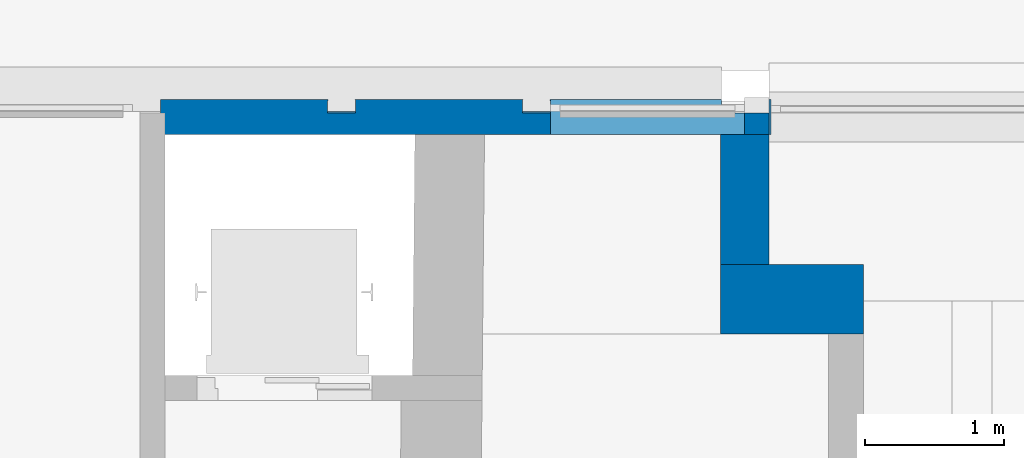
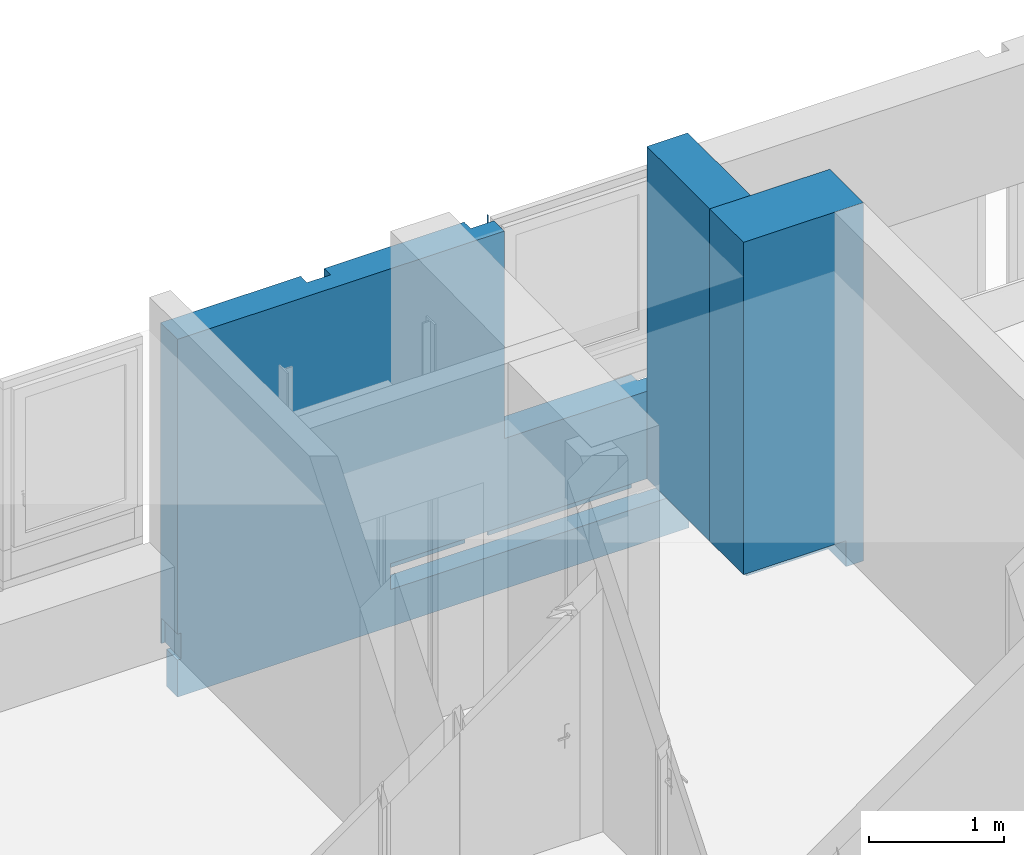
# One storey, part 81 of 97: 3 walls.
"""IFC4 building model written with IfcOpenShell, lengths in metres."""

from ifc_helpers import new_model, entity, si_unit, converted_unit, derived_unit, direction, frame, origin, place, context, subcontext, project, spatial, polygons, material, layer, layer_set, type_object, element, save


model = new_model("IFC4")

# Units and contexts
model_context = context("Model", 3, precision=1e-05, world=origin(), true_north=direction((6.12303176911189e-17, 1.0)))
body_context = subcontext(model_context, "Body", "Model", "MODEL_VIEW")
ifc_project = project(units=[si_unit("LENGTHUNIT", "METRE"), si_unit("AREAUNIT", "SQUARE_METRE"), si_unit("VOLUMEUNIT", "CUBIC_METRE"), converted_unit("PLANEANGLEUNIT", "DEGREE", entity("IfcRatioMeasure", 0.0174532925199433), si_unit("PLANEANGLEUNIT", "RADIAN"), dimensions=[0, 0, 0, 0, 0, 0, 0]), si_unit("MASSUNIT", "GRAM", prefix="KILO"), derived_unit("MASSDENSITYUNIT", [(si_unit("MASSUNIT", "GRAM", prefix="KILO"), 1), (si_unit("LENGTHUNIT", "METRE"), -3)]), derived_unit("MOMENTOFINERTIAUNIT", [(si_unit("LENGTHUNIT", "METRE"), 4)]), si_unit("TIMEUNIT", "SECOND"), si_unit("FREQUENCYUNIT", "HERTZ"), si_unit("THERMODYNAMICTEMPERATUREUNIT", "DEGREE_CELSIUS"), derived_unit("THERMALTRANSMITTANCEUNIT", [(si_unit("MASSUNIT", "GRAM", prefix="KILO"), 1), (si_unit("THERMODYNAMICTEMPERATUREUNIT", "KELVIN"), -1), (si_unit("TIMEUNIT", "SECOND"), -3)]), derived_unit("VOLUMETRICFLOWRATEUNIT", [(si_unit("LENGTHUNIT", "METRE"), 3), (si_unit("TIMEUNIT", "SECOND"), -1)]), si_unit("ELECTRICCURRENTUNIT", "AMPERE"), si_unit("ELECTRICVOLTAGEUNIT", "VOLT"), si_unit("POWERUNIT", "WATT"), si_unit("FORCEUNIT", "NEWTON", prefix="KILO"), si_unit("ILLUMINANCEUNIT", "LUX"), si_unit("LUMINOUSFLUXUNIT", "LUMEN"), si_unit("LUMINOUSINTENSITYUNIT", "CANDELA"), derived_unit("USERDEFINED", [(si_unit("MASSUNIT", "GRAM", prefix="KILO"), -1), (si_unit("LENGTHUNIT", "METRE"), -2), (si_unit("TIMEUNIT", "SECOND"), 3), (si_unit("LUMINOUSFLUXUNIT", "LUMEN"), 1)]), derived_unit("LINEARVELOCITYUNIT", [(si_unit("LENGTHUNIT", "METRE"), 1), (si_unit("TIMEUNIT", "SECOND"), -1)]), si_unit("PRESSUREUNIT", "PASCAL"), derived_unit("USERDEFINED", [(si_unit("LENGTHUNIT", "METRE"), -2), (si_unit("MASSUNIT", "GRAM", prefix="KILO"), 1), (si_unit("TIMEUNIT", "SECOND"), -2)]), derived_unit("LINEARFORCEUNIT", [(si_unit("MASSUNIT", "GRAM", prefix="KILO"), 1), (si_unit("LENGTHUNIT", "METRE"), 1), (si_unit("TIMEUNIT", "SECOND"), -2), (si_unit("LENGTHUNIT", "METRE"), -1)]), derived_unit("PLANARFORCEUNIT", [(si_unit("MASSUNIT", "GRAM", prefix="KILO"), 1), (si_unit("LENGTHUNIT", "METRE"), 1), (si_unit("TIMEUNIT", "SECOND"), -2), (si_unit("LENGTHUNIT", "METRE"), -2)])], contexts=[model_context])

# Site, building, storey
site_placement = place(None, origin())
site = spatial("IfcSite", under=ifc_project, at=site_placement, Name="Default", CompositionType="ELEMENT")
building_placement = place(site_placement, origin())
building = spatial("IfcBuilding", under=site, at=building_placement, Name="HOTEL CONSULAIRE BOULOGNE SUR MER", CompositionType="ELEMENT")
storey_placement = place(building_placement, frame((0.0, 0.0, 3.62152697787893)))
storey = spatial("IfcBuildingStorey", under=building, at=storey_placement, Name="Niveau 1", CompositionType="ELEMENT", Elevation=3.62152697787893)

# Walls
ifc_material = material(Name="Mur par défaut", Category="Divers")
ifc_layer_1 = layer(ifc_material, 0.35, Name="Mur par défaut", Category="Divers")
ifc_layer_set_1 = layer_set([ifc_layer_1], Name="Mur de base:Générique - Int.350")
wall_type_1 = type_object("IfcWallType", Name="Mur de base:Générique - Int.350", PredefinedType="NOTDEFINED", material=ifc_layer_set_1)
wall_1_placement = place(storey_placement, frame((11.4734778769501, -11.1735010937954, -0.235), z_axis=(0.0, 0.0, 1.0), x_axis=(0.0, 1.0, 0.0)))
element("IfcWall", 1, at=wall_1_placement, inside=storey, type_object=wall_type_1, material=ifc_layer_set_1, Name="Mur de base:Générique - Int.350", ObjectType="Mur de base:Générique - Int.350", PredefinedType="NOTDEFINED", context=body_context, shape_type="Tessellation", body=[
    polygons([(0.0, -0.175000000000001, -5.41433564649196e-16), (0.933176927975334, -0.175000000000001, -5.41433564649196e-16), (0.933176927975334, -0.175000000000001, 1.83436343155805), (0.879483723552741, -0.175000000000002, 1.83436343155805), (0.879483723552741, -0.175000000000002, 2.90547302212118), (0.933176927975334, -0.175000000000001, 2.90547302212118), (0.933176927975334, -0.175000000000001, 3.24521454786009), (0.0, -0.175000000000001, 3.24521454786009), (0.0, 0.175, 3.24521454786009), (0.933176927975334, 0.174999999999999, 3.24521454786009), (0.933176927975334, 0.174999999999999, 2.90547302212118), (0.933176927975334, 0.174999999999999, 1.83436343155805), (0.933176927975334, 0.174999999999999, 0.235), (0.0, 0.175, 0.235), (0.0, -0.00316042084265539, -5.41433564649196e-16), (0.933176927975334, -0.00316042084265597, -5.41433564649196e-16), (0.933176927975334, 0.0125193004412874, 3.24521454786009), (0.0, -0.00316042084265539, 0.235), (0.933176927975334, -0.00316042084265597, 0.235), (0.933176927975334, 2.05905469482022e-15, 1.83436343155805), (0.933176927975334, 0.0125193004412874, 1.83436343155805), (0.879483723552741, 0.0125193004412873, 1.83436343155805), (0.879483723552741, 1.96765039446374e-15, 1.83436343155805), (0.879483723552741, 1.96765039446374e-15, 2.90547302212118), (0.879483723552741, 0.0125193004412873, 2.90547302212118), (0.933176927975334, 0.0125193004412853, 2.90547302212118)], [[[1, 2, 3, 4, 5, 6, 7, 8]], [[25, 22, 21, 26]], [[10, 11, 12, 13, 14, 9]], [[19, 16, 15, 18]], [[2, 1, 15, 16]], [[13, 19, 18, 14]], [[24, 25, 26, 6, 5]], [[8, 7, 17, 10, 9]], [[21, 22, 23, 4, 3, 20]], [[1, 8, 9, 14, 18, 15]], [[20, 3, 2, 16, 19, 13, 12, 11, 10, 17, 7, 6, 26, 21]], [[5, 4, 23, 22, 25, 24]]], closed=True),
])
ifc_layer_2 = layer(ifc_material, 0.5, Name="Mur par défaut", Category="Divers")
ifc_layer_set_2 = layer_set([ifc_layer_2], Name="Mur de base:Générique - Int.500")
wall_type_2 = type_object("IfcWallType", Name="Mur de base:Générique - Int.500", PredefinedType="NOTDEFINED", material=ifc_layer_set_2)
wall_2_placement = place(storey_placement, frame((12.3264778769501, -11.4235010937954, -0.235), z_axis=(0.0, 0.0, 1.0), x_axis=(-1.0, 0.0, 0.0)))
element("IfcWall", 2, at=wall_2_placement, inside=storey, type_object=wall_type_2, material=ifc_layer_set_2, Name="Mur de base:Générique - Int.500", ObjectType="Mur de base:Générique - Int.500", PredefinedType="NOTDEFINED", context=body_context, shape_type="Tessellation", body=[
    polygons([(1.028, -0.249999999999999, 3.24521454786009), (0.678000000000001, -0.249999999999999, 3.24521454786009), (1.3993303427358e-15, -0.249999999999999, 3.24521454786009), (1.3993303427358e-15, -0.249999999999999, -5.41433564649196e-16), (0.678000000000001, -0.249999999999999, -5.41433564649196e-16), (0.849839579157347, -0.249999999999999, -5.41433564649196e-16), (0.849839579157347, -0.249999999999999, 0.235), (1.028, -0.249999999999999, 0.235), (8.24068895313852e-18, 0.249999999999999, 3.24521454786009), (1.028, 0.249999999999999, 3.24521454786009), (1.028, 0.249999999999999, 0.235), (0.249999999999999, 0.249999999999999, 0.235), (0.150000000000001, 0.249999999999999, 0.235), (0.150000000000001, 0.249999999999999, -5.41433564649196e-16), (8.24068895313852e-18, 0.249999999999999, -5.41433564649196e-16), (0.150000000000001, -0.0143070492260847, -5.41433564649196e-16), (0.849839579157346, -0.0143070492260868, -5.41433564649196e-16), (0.849839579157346, -0.0143070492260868, 0.235), (0.150000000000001, -0.0143070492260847, 0.235)], [[[3, 4, 5, 6, 7, 8, 1, 2]], [[10, 11, 12, 13, 14, 15, 9]], [[19, 18, 17, 16]], [[5, 4, 15, 14, 16, 17, 6]], [[19, 13, 12, 11, 8, 7, 18]], [[2, 1, 10, 9, 3]], [[1, 8, 11, 10]], [[7, 6, 17, 18]], [[19, 16, 14, 13]], [[9, 15, 4, 3]]], closed=True),
])
ifc_layer_3 = layer(ifc_material, 0.25, Name="Mur par défaut", Category="Divers")
ifc_layer_set_3 = layer_set([ifc_layer_3], Name="Mur de base:Générique - Ext. 250 mm")
wall_type_3 = type_object("IfcWallType", Name="Mur de base:Générique - Ext. 250 mm", PredefinedType="NOTDEFINED", material=ifc_layer_set_3)
wall_3_placement = place(storey_placement, frame((7.27757836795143, -10.11532416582, -0.570422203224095)))
element("IfcWall", 3, at=wall_3_placement, inside=storey, type_object=wall_type_3, material=ifc_layer_set_3, Name="Mur de base:Générique - Ext. 250 mm", ObjectType="Mur de base:Générique - Ext. 250 mm", PredefinedType="NOTDEFINED", context=body_context, shape_type="Tessellation", body=[
    polygons([(-5.04884165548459e-16, 0.125, 0.340022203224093), (-5.04884165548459e-16, 0.125, 3.24089522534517), (1.20215165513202, 0.125, 3.24089522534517), (1.20215165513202, 0.125, 0.340022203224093), (1.39784834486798, 0.125, 0.340022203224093), (1.39784834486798, 0.125, 3.24089522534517), (2.60215165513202, 0.125, 3.24089522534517), (2.60215165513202, 0.125, 0.340022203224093), (2.8, 0.124999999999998, 3.24089522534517), (2.8, 0.124999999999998, 1.36203474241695), (4.02905992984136, 0.125, 1.36203474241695), (4.02905992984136, 0.125, 0.340022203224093), (2.79784834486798, 0.124999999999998, 0.340022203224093), (2.79784834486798, 0.124999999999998, 3.24089522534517), (4.85103720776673e-16, -0.125, 3.24089522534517), (2.8, -0.125, 3.24089522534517), (2.8, 0.0296556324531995, 3.24089522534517), (2.6, 0.0296556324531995, 3.24089522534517), (2.6, 0.110655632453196, 3.24089522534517), (1.4, 0.110655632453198, 3.24089522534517), (1.4, 0.0296556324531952, 3.24089522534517), (1.2, 0.0296556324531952, 3.24089522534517), (1.2, 0.110655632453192, 3.24089522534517), (-4.6010430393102e-16, 0.11369181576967, 0.340022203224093), (-4.6010430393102e-16, 0.11369181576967, 0.570422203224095), (4.85103720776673e-16, -0.125, 0.570422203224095), (2.8, -0.125000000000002, 1.36203474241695), (2.8, 0.0296556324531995, 1.36203474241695), (1.4, 0.0406918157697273, 0.340022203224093), (1.4, 0.110655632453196, 0.340022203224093), (2.60045542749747, 0.113691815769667, 0.340022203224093), (1.82931042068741, 0.113691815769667, 0.340022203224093), (1.82860792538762, 0.0406918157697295, 0.340022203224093), (1.2, 0.110655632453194, 0.340022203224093), (1.2, 0.0406918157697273, 0.340022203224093), (0.0314018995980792, 0.0406918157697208, 0.340022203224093), (0.0314018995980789, 0.11369181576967, 0.340022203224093), (4.02905992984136, 0.030691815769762, 0.0), (4.02905992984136, 0.0406918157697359, 0.0), (4.02905992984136, 0.0406918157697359, 0.335422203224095), (4.02905992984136, 0.030691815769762, 0.335422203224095), (0.0314018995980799, -0.125, 0.335422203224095), (0.0314018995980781, 0.0406918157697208, 0.335422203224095), (-1.71027841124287e-16, 0.0406918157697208, 0.335422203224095), (4.85103720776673e-16, -0.125, 0.335422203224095), (0.0314018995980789, 0.11369181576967, 0.570422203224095), (0.0314018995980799, -0.125, 0.570422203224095), (4.02905992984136, 0.11369181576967, 0.570422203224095), (2.79954457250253, 0.113691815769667, 0.570422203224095), (2.79954457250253, 0.113691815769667, 0.340022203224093), (4.02905992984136, 0.11369181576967, 0.340022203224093), (4.85103720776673e-16, -0.125, 0.0), (2.5478457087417, -0.125, 0.0), (4.38361913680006, -0.125, 0.0), (4.38361913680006, -0.125, 0.335422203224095), (4.37089950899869, -0.125, 0.335422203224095), (4.37089950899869, -0.125, 2.16978563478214), (4.19589950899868, -0.125, 2.16978563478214), (4.19589950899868, -0.125, 1.36203474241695), (4.19905992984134, -0.125, 0.335422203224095), (3.85361913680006, -0.125, 0.335422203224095), (2.18703010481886, -0.125, 0.335422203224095), (1.827013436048, -0.125, 0.335422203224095), (1.827013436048, -0.125, 0.570422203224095), (2.32703658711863, -0.125, 0.570422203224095), (4.02089950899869, -0.125, 0.570422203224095), (4.19905992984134, -0.125, 0.570422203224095), (4.37089950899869, 0.125, 0.335422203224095), (4.38361913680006, 0.125, 0.335422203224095), (4.38361913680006, 0.125, 0.0), (4.36905992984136, 0.125, 0.0), (4.36905992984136, 0.125, 2.16978563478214), (4.37089950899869, 0.125, 2.16978563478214), (-1.71027841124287e-16, 0.0406918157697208, 0.0), (4.36905992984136, 0.030691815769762, 0.0), (2.8, 0.110655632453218, 3.24089522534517), (2.8, 0.110655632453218, 1.36203474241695), (4.19589950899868, 0.030691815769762, 2.16978563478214), (4.19589950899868, 0.030691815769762, 1.36203474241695), (4.02905992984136, 0.030691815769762, 1.36203474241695), (1.82860792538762, 0.0406918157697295, 0.335422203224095), (4.19905992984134, 0.030691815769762, 0.335422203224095), (4.19905992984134, 0.030691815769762, 0.570422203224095), (4.02905992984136, 0.030691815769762, 0.570422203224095), (4.36905992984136, 0.030691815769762, 2.16978563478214), (1.2, 0.0296556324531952, 0.340022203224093), (1.4, 0.0296556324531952, 0.340022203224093), (2.6, 0.110655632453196, 0.570422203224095), (2.60045542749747, 0.113691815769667, 0.570422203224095), (2.6, 0.0296556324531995, 0.570422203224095), (2.8, 0.0296556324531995, 0.570422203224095), (2.8, 0.110655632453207, 0.570422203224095), (1.82931042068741, 0.11369181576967, 0.570422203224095)], [[[3, 4, 1, 2]], [[7, 8, 5, 6]], [[12, 13, 14, 9, 10, 11]], [[70, 71, 72, 73, 68, 69]], [[74, 44, 43, 36, 35, 29, 33, 81, 40, 39]], [[79, 78, 85, 75, 38, 41, 82, 83, 84, 80]], [[87, 86, 22, 21]], [[28, 91, 90, 18, 17]], [[16, 17, 18, 19, 7, 6, 20, 21, 22, 23, 3, 2, 15]], [[45, 42, 43, 44]], [[76, 9, 14]], [[80, 11, 10, 77, 28, 27, 59, 79]], [[68, 56, 55, 69]], [[29, 35, 86, 87]], [[58, 57, 73, 72, 85, 78]], [[41, 40, 81, 63, 62, 61, 60, 82]], [[15, 2, 1, 24, 25, 26]], [[52, 45, 44, 74]], [[59, 58, 78, 79]], [[29, 87, 21, 20, 30]], [[92, 91, 28, 77]], [[71, 75, 85, 72]], [[67, 83, 82, 60]], [[43, 42, 47, 46, 37, 36]], [[27, 28, 17, 16]], [[39, 40, 41, 38]], [[76, 77, 10, 9]], [[48, 51, 12, 11, 80, 84]], [[55, 54, 70, 69]], [[35, 34, 23, 22, 86]], [[90, 88, 19, 18]], [[57, 56, 68, 73]], [[32, 33, 29, 30, 5, 8, 31]], [[24, 1, 4, 34, 35, 36, 37]], [[46, 47, 26, 25]], [[38, 75, 71, 70, 54, 53, 52, 74, 39]], [[13, 12, 51, 50]], [[66, 65, 64, 93, 89, 88, 90, 91, 92, 49, 48, 84, 83, 67]], [[49, 50, 51, 48]], [[45, 52, 53, 54, 55, 56, 57, 58, 59, 27, 16, 15, 26, 47, 42], [63, 64, 65, 66, 67, 60, 61, 62]], [[25, 24, 37, 46]], [[93, 32, 31, 89]], [[34, 4, 3, 23]], [[89, 31, 8, 7, 19, 88]], [[5, 30, 20, 6]], [[77, 76, 14, 13, 50, 49, 92]], [[63, 81, 33, 32, 93, 64]]], closed=True),
])

save(model, "model.ifc")
